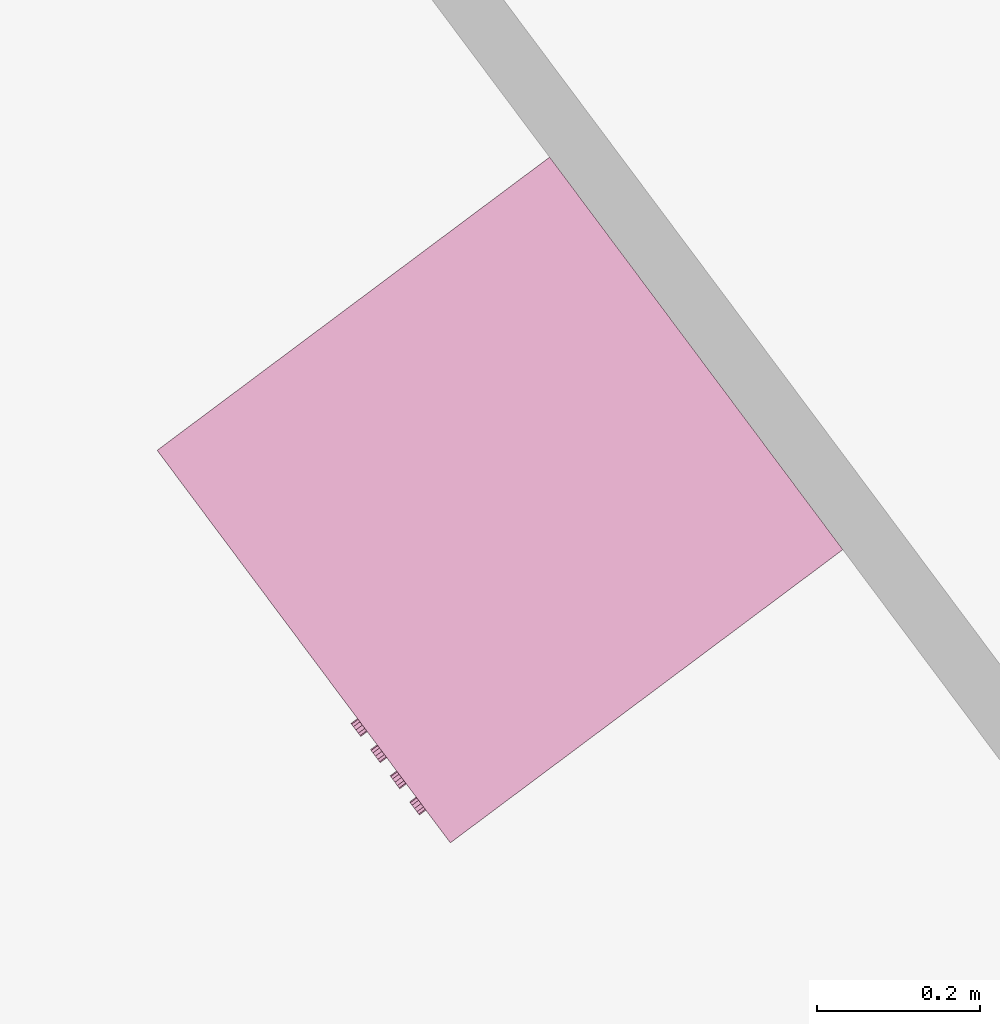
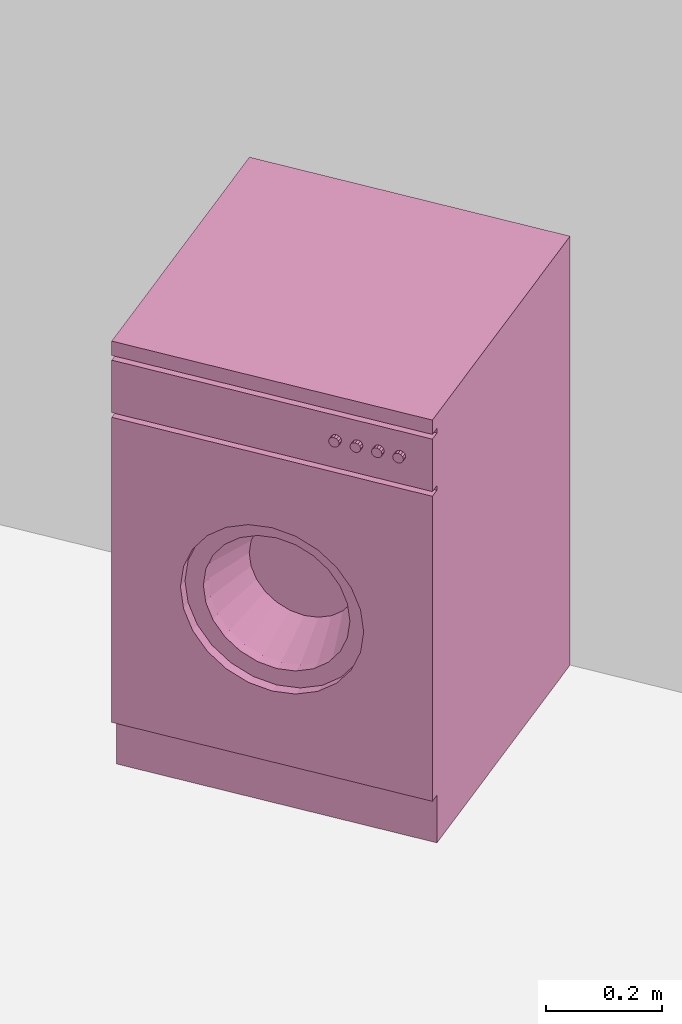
# One storey, part 96 of 121: 1 furnishing.
"""IFC2X3 building model written with IfcOpenShell, lengths in metres."""

from ifc_helpers import new_model, entity, si_unit, converted_unit, derived_unit, money_unit, direction, frame, origin_with_axes, place, context, subcontext, project, spatial, open_shell, faceted_brep, surface_model, source, transform, mapped, type_object, element, save


model = new_model("IFC2X3")

# Units and contexts
model_context = context("Model", 3, precision=1e-05, world=origin_with_axes(), true_north=direction((0.0, 1.0)))
body_context = subcontext(model_context, "Body", "Model", "MODEL_VIEW")
ifc_project = project(units=[si_unit("LENGTHUNIT", "METRE"), si_unit("AREAUNIT", "SQUARE_METRE"), si_unit("VOLUMEUNIT", "CUBIC_METRE"), converted_unit("PLANEANGLEUNIT", "DEGREE", entity("IfcPlaneAngleMeasure", 0.0174532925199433), si_unit("PLANEANGLEUNIT", "RADIAN"), dimensions=[0, 0, 0, 0, 0, 0, 0]), money_unit("CHF"), converted_unit("TIMEUNIT", "Year", entity("IfcTimeMeasure", 31557600.0), si_unit("TIMEUNIT", "SECOND"), dimensions=[0, 0, 1, 0, 0, 0, 0]), si_unit("MASSUNIT", "GRAM", prefix="KILO"), si_unit("THERMODYNAMICTEMPERATUREUNIT", "DEGREE_CELSIUS"), si_unit("LUMINOUSINTENSITYUNIT", "LUMEN"), si_unit("ENERGYUNIT", "JOULE", prefix="MEGA"), derived_unit("THERMALCONDUCTANCEUNIT", [(si_unit("POWERUNIT", "WATT"), 1), (si_unit("LENGTHUNIT", "METRE"), -1), (si_unit("THERMODYNAMICTEMPERATUREUNIT", "KELVIN"), -1)]), derived_unit("SPECIFICHEATCAPACITYUNIT", [(si_unit("ENERGYUNIT", "JOULE"), 1), (si_unit("MASSUNIT", "GRAM", prefix="KILO"), -1), (si_unit("THERMODYNAMICTEMPERATUREUNIT", "KELVIN"), -1)]), derived_unit("MASSDENSITYUNIT", [(si_unit("MASSUNIT", "GRAM", prefix="KILO"), 1), (si_unit("VOLUMEUNIT", "CUBIC_METRE"), -1)])], contexts=[model_context])

# Site, building, storey
site_placement = place(None, origin_with_axes())
site = spatial("IfcSite", under=ifc_project, at=site_placement, Name="Site", CompositionType="ELEMENT")
building_placement = place(site_placement, origin_with_axes())
building = spatial("IfcBuilding", under=site, at=building_placement, Name="Bâtiment", CompositionType="ELEMENT")
storey_placement = place(building_placement, frame((0.0, 0.0, 2.75), z_axis=(0.0, 0.0, 1.0), x_axis=(1.0, 0.0, 0.0)))
storey = spatial("IfcBuildingStorey", under=building, at=storey_placement, Name="Etage 1", CompositionType="ELEMENT", Elevation=2.75)

# Furnishing
furnishing_element_type = type_object("IfcFurnishingElementType", Name="Machine à laver")
shared_shape = source(origin_with_axes(), body_context, "Body", "SurfaceModel", [
    faceted_brep([(0.0, 0.02, 0.1), (0.0, 0.0, 0.1), (-0.6, 0.0, 0.1), (-0.6, 0.02, 0.1), (0.0, 0.02000000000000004, 0.74), (0.0, 0.0, 0.74), (-0.6, 0.0, 0.74), (-0.4714285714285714, 0.0, 0.42), (-0.4655872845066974, 0.0, 0.4643689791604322), (-0.448461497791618, 0.0, 0.5057142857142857), (-0.4212183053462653, 0.0, 0.5412183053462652), (-0.3857142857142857, 0.0, 0.568461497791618), (-0.3443689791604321, 0.0, 0.5855872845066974), (-0.3, 0.0, 0.5914285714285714), (-0.2556310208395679, 0.0, 0.5855872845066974), (-0.2142857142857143, 0.0, 0.5684614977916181), (-0.1787816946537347, 0.0, 0.5412183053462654), (-0.1515385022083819, 0.0, 0.5057142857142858), (-0.1344127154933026, 0.0, 0.4643689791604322), (-0.1285714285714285, 0.0, 0.42), (-0.1344127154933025, 0.0, 0.3756310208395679), (-0.1515385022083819, 0.0, 0.3342857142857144), (-0.1787816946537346, 0.0, 0.2987816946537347), (-0.2142857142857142, 0.0, 0.2715385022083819), (-0.2556310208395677, 0.0, 0.2544127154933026), (-0.2999999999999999, 0.0, 0.2485714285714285), (-0.344368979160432, 0.0, 0.2544127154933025), (-0.3857142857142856, 0.0, 0.2715385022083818), (-0.4212183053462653, 0.0, 0.2987816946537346), (-0.448461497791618, 0.0, 0.3342857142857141), (-0.4655872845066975, 0.0, 0.3756310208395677), (-0.6, 0.02000000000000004, 0.74), (-0.4714285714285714, 0.02000000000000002, 0.42), (-0.4655872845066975, 0.02000000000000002, 0.3756310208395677), (-0.448461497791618, 0.02000000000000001, 0.3342857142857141), (-0.4212183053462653, 0.02000000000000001, 0.2987816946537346), (-0.3857142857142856, 0.02000000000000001, 0.2715385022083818), (-0.344368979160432, 0.02000000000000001, 0.2544127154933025), (-0.2999999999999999, 0.02000000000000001, 0.2485714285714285), (-0.2556310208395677, 0.02000000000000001, 0.2544127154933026), (-0.2142857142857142, 0.02000000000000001, 0.2715385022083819), (-0.1787816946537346, 0.02000000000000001, 0.2987816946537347), (-0.1515385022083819, 0.02000000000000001, 0.3342857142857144), (-0.1344127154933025, 0.02000000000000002, 0.3756310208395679), (-0.1285714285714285, 0.02000000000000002, 0.42), (-0.1344127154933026, 0.02000000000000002, 0.4643689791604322), (-0.1515385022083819, 0.02000000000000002, 0.5057142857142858), (-0.1787816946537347, 0.02000000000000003, 0.5412183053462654), (-0.2142857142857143, 0.02000000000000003, 0.5684614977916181), (-0.2556310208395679, 0.02000000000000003, 0.5855872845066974), (-0.3, 0.02000000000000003, 0.5914285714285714), (-0.3443689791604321, 0.02000000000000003, 0.5855872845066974), (-0.3857142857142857, 0.02000000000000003, 0.568461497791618), (-0.4212183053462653, 0.02000000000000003, 0.5412183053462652), (-0.448461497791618, 0.02000000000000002, 0.5057142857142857), (-0.4655872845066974, 0.02000000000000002, 0.4643689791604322)], [[[0, 1, 2, 3]], [[4, 5, 1, 0]], [[1, 5, 6, 2], [7, 8, 9, 10, 11, 12, 13, 14, 15, 16, 17, 18, 19, 20, 21, 22, 23, 24, 25, 26, 27, 28, 29, 30]], [[3, 2, 6, 31]], [[0, 3, 31, 4], [32, 33, 34, 35, 36, 37, 38, 39, 40, 41, 42, 43, 44, 45, 46, 47, 48, 49, 50, 51, 52, 53, 54, 55]], [[31, 6, 5, 4]], [[55, 8, 7, 32]], [[54, 9, 8, 55]], [[53, 10, 9, 54]], [[52, 11, 10, 53]], [[51, 12, 11, 52]], [[50, 13, 12, 51]], [[49, 14, 13, 50]], [[48, 15, 14, 49]], [[47, 16, 15, 48]], [[46, 17, 16, 47]], [[45, 18, 17, 46]], [[44, 19, 18, 45]], [[43, 20, 19, 44]], [[42, 21, 20, 43]], [[41, 22, 21, 42]], [[40, 23, 22, 41]], [[39, 24, 23, 40]], [[38, 25, 24, 39]], [[37, 26, 25, 38]], [[36, 27, 26, 37]], [[35, 28, 27, 36]], [[34, 29, 28, 35]], [[33, 30, 29, 34]], [[32, 7, 30, 33]]]),
    faceted_brep([(-0.4714285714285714, 0.04000000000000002, 0.42), (-0.4714285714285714, 0.02000000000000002, 0.42), (-0.4655872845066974, 0.02000000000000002, 0.4643689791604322), (-0.4655872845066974, 0.04000000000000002, 0.4643689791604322), (-0.4655872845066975, 0.04000000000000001, 0.3756310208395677), (-0.4655872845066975, 0.02000000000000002, 0.3756310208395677), (-0.448461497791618, 0.02000000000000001, 0.3342857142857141), (-0.4212183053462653, 0.02000000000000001, 0.2987816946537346), (-0.3857142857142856, 0.02000000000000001, 0.2715385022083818), (-0.344368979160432, 0.02000000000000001, 0.2544127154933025), (-0.2999999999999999, 0.02000000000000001, 0.2485714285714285), (-0.2556310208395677, 0.02000000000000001, 0.2544127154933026), (-0.2142857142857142, 0.02000000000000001, 0.2715385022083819), (-0.1787816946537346, 0.02000000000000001, 0.2987816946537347), (-0.1515385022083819, 0.02000000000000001, 0.3342857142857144), (-0.1344127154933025, 0.02000000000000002, 0.3756310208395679), (-0.1285714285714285, 0.02000000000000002, 0.42), (-0.1344127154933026, 0.02000000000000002, 0.4643689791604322), (-0.1515385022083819, 0.02000000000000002, 0.5057142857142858), (-0.1787816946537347, 0.02000000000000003, 0.5412183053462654), (-0.2142857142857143, 0.02000000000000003, 0.5684614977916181), (-0.2556310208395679, 0.02000000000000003, 0.5855872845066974), (-0.3, 0.02000000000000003, 0.5914285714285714), (-0.3443689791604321, 0.02000000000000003, 0.5855872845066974), (-0.3857142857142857, 0.02000000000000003, 0.568461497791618), (-0.4212183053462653, 0.02000000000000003, 0.5412183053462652), (-0.448461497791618, 0.02000000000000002, 0.5057142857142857), (-0.4371428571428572, 0.02000000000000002, 0.42), (-0.432469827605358, 0.02000000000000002, 0.4554951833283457), (-0.4187691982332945, 0.02000000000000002, 0.4885714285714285), (-0.3969746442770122, 0.02000000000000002, 0.5169746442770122), (-0.3685714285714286, 0.02000000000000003, 0.5387691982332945), (-0.3354951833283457, 0.02000000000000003, 0.552469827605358), (-0.3, 0.02000000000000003, 0.5571428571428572), (-0.2645048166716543, 0.02000000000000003, 0.552469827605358), (-0.2314285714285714, 0.02000000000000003, 0.5387691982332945), (-0.2030253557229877, 0.02000000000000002, 0.5169746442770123), (-0.1812308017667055, 0.02000000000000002, 0.4885714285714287), (-0.167530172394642, 0.02000000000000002, 0.4554951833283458), (-0.1628571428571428, 0.02000000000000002, 0.42), (-0.167530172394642, 0.02000000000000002, 0.3845048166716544), (-0.1812308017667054, 0.02000000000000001, 0.3514285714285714), (-0.2030253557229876, 0.02000000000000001, 0.3230253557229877), (-0.2314285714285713, 0.02000000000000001, 0.3012308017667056), (-0.2645048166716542, 0.02000000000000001, 0.287530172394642), (-0.2999999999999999, 0.02000000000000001, 0.2828571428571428), (-0.3354951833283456, 0.02000000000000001, 0.287530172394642), (-0.3685714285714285, 0.02000000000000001, 0.3012308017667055), (-0.3969746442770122, 0.02000000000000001, 0.3230253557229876), (-0.4187691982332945, 0.02000000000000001, 0.3514285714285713), (-0.432469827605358, 0.02000000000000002, 0.3845048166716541), (-0.448461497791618, 0.04000000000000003, 0.5057142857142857), (-0.4212183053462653, 0.04000000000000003, 0.5412183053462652), (-0.3857142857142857, 0.04000000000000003, 0.568461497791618), (-0.3443689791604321, 0.04000000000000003, 0.5855872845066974), (-0.3, 0.04000000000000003, 0.5914285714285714), (-0.2556310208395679, 0.04000000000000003, 0.5855872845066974), (-0.2142857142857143, 0.04000000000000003, 0.5684614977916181), (-0.1787816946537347, 0.04000000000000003, 0.5412183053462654), (-0.1515385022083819, 0.04000000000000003, 0.5057142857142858), (-0.1344127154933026, 0.04000000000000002, 0.4643689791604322), (-0.1285714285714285, 0.04000000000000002, 0.42), (-0.1344127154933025, 0.04000000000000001, 0.3756310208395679), (-0.1515385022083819, 0.04000000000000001, 0.3342857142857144), (-0.1787816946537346, 0.04000000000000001, 0.2987816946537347), (-0.2142857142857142, 0.04000000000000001, 0.2715385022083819), (-0.2556310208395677, 0.04000000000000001, 0.2544127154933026), (-0.2999999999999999, 0.04000000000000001, 0.2485714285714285), (-0.344368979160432, 0.04000000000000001, 0.2544127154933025), (-0.3857142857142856, 0.04000000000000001, 0.2715385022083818), (-0.4212183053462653, 0.04000000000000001, 0.2987816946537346), (-0.448461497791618, 0.04000000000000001, 0.3342857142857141), (-0.4371428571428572, 0.04000000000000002, 0.42), (-0.432469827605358, 0.04000000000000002, 0.3845048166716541), (-0.4187691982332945, 0.04000000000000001, 0.3514285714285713), (-0.3969746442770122, 0.04000000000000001, 0.3230253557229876), (-0.3685714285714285, 0.04000000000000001, 0.3012308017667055), (-0.3354951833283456, 0.04000000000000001, 0.287530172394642), (-0.2999999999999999, 0.04000000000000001, 0.2828571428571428), (-0.2645048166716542, 0.04000000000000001, 0.287530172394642), (-0.2314285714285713, 0.04000000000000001, 0.3012308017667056), (-0.2030253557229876, 0.04000000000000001, 0.3230253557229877), (-0.1812308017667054, 0.04000000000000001, 0.3514285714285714), (-0.167530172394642, 0.04000000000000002, 0.3845048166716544), (-0.1628571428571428, 0.04000000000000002, 0.42), (-0.167530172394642, 0.04000000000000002, 0.4554951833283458), (-0.1812308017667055, 0.04000000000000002, 0.4885714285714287), (-0.2030253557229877, 0.04000000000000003, 0.5169746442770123), (-0.2314285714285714, 0.04000000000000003, 0.5387691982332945), (-0.2645048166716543, 0.04000000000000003, 0.552469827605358), (-0.3, 0.04000000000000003, 0.5571428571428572), (-0.3354951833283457, 0.04000000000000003, 0.552469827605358), (-0.3685714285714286, 0.04000000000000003, 0.5387691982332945), (-0.3969746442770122, 0.04000000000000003, 0.5169746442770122), (-0.4187691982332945, 0.04000000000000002, 0.4885714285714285), (-0.432469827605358, 0.04000000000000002, 0.4554951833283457)], [[[0, 1, 2, 3]], [[4, 5, 1, 0]], [[1, 5, 6, 7, 8, 9, 10, 11, 12, 13, 14, 15, 16, 17, 18, 19, 20, 21, 22, 23, 24, 25, 26, 2], [27, 28, 29, 30, 31, 32, 33, 34, 35, 36, 37, 38, 39, 40, 41, 42, 43, 44, 45, 46, 47, 48, 49, 50]], [[3, 2, 26, 51]], [[0, 3, 51, 52, 53, 54, 55, 56, 57, 58, 59, 60, 61, 62, 63, 64, 65, 66, 67, 68, 69, 70, 71, 4], [72, 73, 74, 75, 76, 77, 78, 79, 80, 81, 82, 83, 84, 85, 86, 87, 88, 89, 90, 91, 92, 93, 94, 95]], [[71, 6, 5, 4]], [[70, 7, 6, 71]], [[69, 8, 7, 70]], [[68, 9, 8, 69]], [[67, 10, 9, 68]], [[66, 11, 10, 67]], [[65, 12, 11, 66]], [[64, 13, 12, 65]], [[63, 14, 13, 64]], [[62, 15, 14, 63]], [[61, 16, 15, 62]], [[60, 17, 16, 61]], [[59, 18, 17, 60]], [[58, 19, 18, 59]], [[57, 20, 19, 58]], [[56, 21, 20, 57]], [[55, 22, 21, 56]], [[54, 23, 22, 55]], [[53, 24, 23, 54]], [[52, 25, 24, 53]], [[51, 26, 25, 52]], [[95, 28, 27, 72]], [[94, 29, 28, 95]], [[93, 30, 29, 94]], [[92, 31, 30, 93]], [[91, 32, 31, 92]], [[90, 33, 32, 91]], [[89, 34, 33, 90]], [[88, 35, 34, 89]], [[87, 36, 35, 88]], [[86, 37, 36, 87]], [[85, 38, 37, 86]], [[84, 39, 38, 85]], [[83, 40, 39, 84]], [[82, 41, 40, 83]], [[81, 42, 41, 82]], [[80, 43, 42, 81]], [[79, 44, 43, 80]], [[78, 45, 44, 79]], [[77, 46, 45, 78]], [[76, 47, 46, 77]], [[75, 48, 47, 76]], [[74, 49, 48, 75]], [[73, 50, 49, 74]], [[72, 27, 50, 73]]]),
    surface_model("IfcShellBasedSurfaceModel", [(-0.2645048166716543, 0.03999999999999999, 0.552469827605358), (-0.2733786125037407, 0.14, 0.5193523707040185), (-0.3, 0.14, 0.5228571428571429), (-0.3, 0.03999999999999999, 0.5571428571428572), (-0.2314285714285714, 0.03999999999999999, 0.5387691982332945), (-0.2485714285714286, 0.14, 0.5090768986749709), (-0.2272690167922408, 0.14, 0.4927309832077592), (-0.2109231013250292, 0.14, 0.4714285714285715), (-0.2006476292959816, 0.14, 0.4466213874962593), (-0.1971428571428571, 0.14, 0.4200000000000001), (-0.2006476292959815, 0.14, 0.3933786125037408), (-0.2109231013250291, 0.14, 0.3685714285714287), (-0.2272690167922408, 0.14, 0.3472690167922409), (-0.2485714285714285, 0.14, 0.3309231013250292), (-0.2733786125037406, 0.14, 0.3206476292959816), (-0.2999999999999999, 0.14, 0.3171428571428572), (-0.3266213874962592, 0.14, 0.3206476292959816), (-0.3514285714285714, 0.14, 0.3309231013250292), (-0.3727309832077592, 0.14, 0.3472690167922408), (-0.3890768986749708, 0.14, 0.3685714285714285), (-0.3993523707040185, 0.14, 0.3933786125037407), (-0.4028571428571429, 0.14, 0.42), (-0.3993523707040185, 0.14, 0.4466213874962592), (-0.3890768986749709, 0.14, 0.4714285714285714), (-0.3727309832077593, 0.14, 0.4927309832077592), (-0.3514285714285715, 0.14, 0.5090768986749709), (-0.3266213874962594, 0.14, 0.5193523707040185), (-0.3354951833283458, 0.03999999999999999, 0.552469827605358), (-0.2030253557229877, 0.03999999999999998, 0.5169746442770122), (-0.1812308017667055, 0.03999999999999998, 0.4885714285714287), (-0.167530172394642, 0.03999999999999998, 0.4554951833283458), (-0.1628571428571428, 0.03999999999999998, 0.4200000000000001), (-0.167530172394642, 0.03999999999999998, 0.3845048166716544), (-0.1812308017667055, 0.03999999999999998, 0.3514285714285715), (-0.2030253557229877, 0.03999999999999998, 0.3230253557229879), (-0.2314285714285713, 0.03999999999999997, 0.3012308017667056), (-0.2645048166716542, 0.03999999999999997, 0.2875301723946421), (-0.2999999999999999, 0.03999999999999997, 0.2828571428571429), (-0.3354951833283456, 0.03999999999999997, 0.2875301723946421), (-0.3685714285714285, 0.03999999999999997, 0.3012308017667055), (-0.3969746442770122, 0.03999999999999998, 0.3230253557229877), (-0.4187691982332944, 0.03999999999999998, 0.3514285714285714), (-0.432469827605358, 0.03999999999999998, 0.3845048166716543), (-0.4371428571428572, 0.03999999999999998, 0.4199999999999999), (-0.432469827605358, 0.03999999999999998, 0.4554951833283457), (-0.4187691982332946, 0.03999999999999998, 0.4885714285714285), (-0.3969746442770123, 0.03999999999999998, 0.5169746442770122), (-0.3685714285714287, 0.03999999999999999, 0.5387691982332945)], [open_shell([[[0, 1, 2, 3]], [[4, 5, 1, 0]], [[2, 1, 5, 6, 7, 8, 9, 10, 11, 12, 13, 14, 15, 16, 17, 18, 19, 20, 21, 22, 23, 24, 25, 26]], [[3, 2, 26, 27]], [[28, 6, 5, 4]], [[29, 7, 6, 28]], [[30, 8, 7, 29]], [[31, 9, 8, 30]], [[32, 10, 9, 31]], [[33, 11, 10, 32]], [[34, 12, 11, 33]], [[35, 13, 12, 34]], [[36, 14, 13, 35]], [[37, 15, 14, 36]], [[38, 16, 15, 37]], [[39, 17, 16, 38]], [[40, 18, 17, 39]], [[41, 19, 18, 40]], [[42, 20, 19, 41]], [[43, 21, 20, 42]], [[44, 22, 21, 43]], [[45, 23, 22, 44]], [[46, 24, 23, 45]], [[47, 25, 24, 46]], [[27, 26, 25, 47]]])]),
    surface_model("IfcShellBasedSurfaceModel", [(0.0, 0.02, 0.1), (0.0, 0.6, 0.09999999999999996), (0.0, 0.6, 0.87), (0.0, 0.02000000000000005, 0.87)], [open_shell([[[0, 1, 2, 3]]])]),
    surface_model("IfcShellBasedSurfaceModel", [(-0.6, 0.01999999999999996, 0.1), (-0.6, 0.5999999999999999, 0.09999999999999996), (-0.6, 0.5999999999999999, 0.87), (-0.6, 0.02000000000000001, 0.87)], [open_shell([[[0, 1, 2, 3]]])]),
    surface_model("IfcShellBasedSurfaceModel", [(0.0, 0.6, 0.1), (-0.6, 0.6, 0.1), (-0.6, 0.6, 0.87), (0.0, 0.6, 0.87)], [open_shell([[[0, 1, 2, 3]]])]),
    faceted_brep([(0.0, 0.02, 0.0), (0.0, 0.02, 0.1), (-0.6, 0.02, 0.1), (-0.6, 0.02, 0.0), (0.0, 0.6, 0.0), (0.0, 0.6, 0.1), (-0.6, 0.6, 0.1), (-0.6, 0.6, 0.0)], [[[0, 1, 2, 3]], [[4, 5, 1, 0]], [[1, 5, 6, 2]], [[3, 2, 6, 7]], [[0, 3, 7, 4]], [[7, 6, 5, 4]]]),
    faceted_brep([(0.0, 0.02, 0.75), (0.0, 0.0, 0.75), (-0.6, 0.0, 0.75), (-0.6, 0.02, 0.75), (0.0, 0.02000000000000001, 0.86), (0.0, 0.0, 0.86), (-0.6, 0.0, 0.86), (-0.6, 0.02000000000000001, 0.86)], [[[0, 1, 2, 3]], [[4, 5, 1, 0]], [[1, 5, 6, 2]], [[3, 2, 6, 7]], [[0, 3, 7, 4]], [[7, 6, 5, 4]]]),
    surface_model("IfcShellBasedSurfaceModel", [(0.0, 0.02, 0.74), (-0.6, 0.02, 0.74), (-0.6, 0.02000000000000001, 0.87), (0.0, 0.02000000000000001, 0.87)], [open_shell([[[0, 1, 2, 3]]])]),
    faceted_brep([(0.0, 0.0, 0.87), (0.0, 0.0, 0.9), (-0.6, 0.0, 0.9), (-0.6, 0.0, 0.87), (0.0, 0.6, 0.87), (0.0, 0.6, 0.9), (-0.6, 0.6, 0.9), (-0.6, 0.6, 0.87)], [[[0, 1, 2, 3]], [[4, 5, 1, 0]], [[1, 5, 6, 2]], [[3, 2, 6, 7]], [[0, 3, 7, 4]], [[7, 6, 5, 4]]]),
    faceted_brep([(-0.06866025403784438, 0.0, 0.8049999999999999), (-0.06999999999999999, 0.0, 0.8099999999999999), (-0.06866025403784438, 0.0, 0.815), (-0.065, 0.0, 0.8186602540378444), (-0.06, 0.0, 0.82), (-0.055, 0.0, 0.8186602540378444), (-0.05133974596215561, 0.0, 0.815), (-0.05, 0.0, 0.8099999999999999), (-0.05133974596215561, 0.0, 0.8049999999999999), (-0.05499999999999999, 0.0, 0.8013397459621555), (-0.05999999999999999, 0.0, 0.7999999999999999), (-0.06499999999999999, 0.0, 0.8013397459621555), (-0.06866025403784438, -0.01, 0.8049999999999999), (-0.06999999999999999, -0.01, 0.8099999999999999), (-0.06866025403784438, -0.01, 0.815), (-0.065, -0.01, 0.8186602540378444), (-0.06, -0.01, 0.82), (-0.055, -0.01, 0.8186602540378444), (-0.05133974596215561, -0.01, 0.815), (-0.05, -0.01, 0.8099999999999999), (-0.05133974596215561, -0.01, 0.8049999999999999), (-0.05499999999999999, -0.01, 0.8013397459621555), (-0.05999999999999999, -0.01, 0.7999999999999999), (-0.06499999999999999, -0.01, 0.8013397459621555)], [[[0, 1, 2, 3, 4, 5, 6, 7, 8, 9, 10, 11]], [[0, 12, 13, 1]], [[1, 13, 14, 2]], [[2, 14, 15, 3]], [[3, 15, 16, 4]], [[4, 16, 17, 5]], [[5, 17, 18, 6]], [[6, 18, 19, 7]], [[7, 19, 20, 8]], [[8, 20, 21, 9]], [[9, 21, 22, 10]], [[10, 22, 23, 11]], [[11, 23, 12, 0]], [[12, 23, 22, 21, 20, 19, 18, 17, 16, 15, 14, 13]]]),
    faceted_brep([(-0.1086602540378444, 0.0, 0.8049999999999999), (-0.11, 0.0, 0.8099999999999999), (-0.1086602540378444, 0.0, 0.815), (-0.105, 0.0, 0.8186602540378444), (-0.1, 0.0, 0.82), (-0.095, 0.0, 0.8186602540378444), (-0.09133974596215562, 0.0, 0.815), (-0.09000000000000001, 0.0, 0.8099999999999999), (-0.09133974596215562, 0.0, 0.8049999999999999), (-0.095, 0.0, 0.8013397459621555), (-0.09999999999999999, 0.0, 0.7999999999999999), (-0.105, 0.0, 0.8013397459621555), (-0.1086602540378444, -0.01, 0.8049999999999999), (-0.11, -0.01, 0.8099999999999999), (-0.1086602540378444, -0.01, 0.815), (-0.105, -0.01, 0.8186602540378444), (-0.1, -0.01, 0.82), (-0.095, -0.01, 0.8186602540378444), (-0.09133974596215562, -0.01, 0.815), (-0.09000000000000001, -0.01, 0.8099999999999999), (-0.09133974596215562, -0.01, 0.8049999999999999), (-0.095, -0.01, 0.8013397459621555), (-0.09999999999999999, -0.01, 0.7999999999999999), (-0.105, -0.01, 0.8013397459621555)], [[[0, 1, 2, 3, 4, 5, 6, 7, 8, 9, 10, 11]], [[0, 12, 13, 1]], [[1, 13, 14, 2]], [[2, 14, 15, 3]], [[3, 15, 16, 4]], [[4, 16, 17, 5]], [[5, 17, 18, 6]], [[6, 18, 19, 7]], [[7, 19, 20, 8]], [[8, 20, 21, 9]], [[9, 21, 22, 10]], [[10, 22, 23, 11]], [[11, 23, 12, 0]], [[12, 23, 22, 21, 20, 19, 18, 17, 16, 15, 14, 13]]]),
    faceted_brep([(-0.1486602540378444, 0.0, 0.8049999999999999), (-0.15, 0.0, 0.8099999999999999), (-0.1486602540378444, 0.0, 0.815), (-0.145, 0.0, 0.8186602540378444), (-0.14, 0.0, 0.82), (-0.135, 0.0, 0.8186602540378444), (-0.1313397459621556, 0.0, 0.815), (-0.13, 0.0, 0.8099999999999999), (-0.1313397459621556, 0.0, 0.8049999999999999), (-0.135, 0.0, 0.8013397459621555), (-0.14, 0.0, 0.7999999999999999), (-0.145, 0.0, 0.8013397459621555), (-0.1486602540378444, -0.01, 0.8049999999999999), (-0.15, -0.01, 0.8099999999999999), (-0.1486602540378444, -0.01, 0.815), (-0.145, -0.01, 0.8186602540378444), (-0.14, -0.01, 0.82), (-0.135, -0.01, 0.8186602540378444), (-0.1313397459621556, -0.01, 0.815), (-0.13, -0.01, 0.8099999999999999), (-0.1313397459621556, -0.01, 0.8049999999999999), (-0.135, -0.01, 0.8013397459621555), (-0.14, -0.01, 0.7999999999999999), (-0.145, -0.01, 0.8013397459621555)], [[[0, 1, 2, 3, 4, 5, 6, 7, 8, 9, 10, 11]], [[0, 12, 13, 1]], [[1, 13, 14, 2]], [[2, 14, 15, 3]], [[3, 15, 16, 4]], [[4, 16, 17, 5]], [[5, 17, 18, 6]], [[6, 18, 19, 7]], [[7, 19, 20, 8]], [[8, 20, 21, 9]], [[9, 21, 22, 10]], [[10, 22, 23, 11]], [[11, 23, 12, 0]], [[12, 23, 22, 21, 20, 19, 18, 17, 16, 15, 14, 13]]]),
    faceted_brep([(-0.1886602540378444, 0.0, 0.8049999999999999), (-0.19, 0.0, 0.8099999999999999), (-0.1886602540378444, 0.0, 0.815), (-0.185, 0.0, 0.8186602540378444), (-0.18, 0.0, 0.82), (-0.175, 0.0, 0.8186602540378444), (-0.1713397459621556, 0.0, 0.815), (-0.17, 0.0, 0.8099999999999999), (-0.1713397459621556, 0.0, 0.8049999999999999), (-0.175, 0.0, 0.8013397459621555), (-0.18, 0.0, 0.7999999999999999), (-0.185, 0.0, 0.8013397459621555), (-0.1886602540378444, -0.01, 0.8049999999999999), (-0.19, -0.01, 0.8099999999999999), (-0.1886602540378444, -0.01, 0.815), (-0.185, -0.01, 0.8186602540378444), (-0.18, -0.01, 0.82), (-0.175, -0.01, 0.8186602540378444), (-0.1713397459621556, -0.01, 0.815), (-0.17, -0.01, 0.8099999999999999), (-0.1713397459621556, -0.01, 0.8049999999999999), (-0.175, -0.01, 0.8013397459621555), (-0.18, -0.01, 0.7999999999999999), (-0.185, -0.01, 0.8013397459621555)], [[[0, 1, 2, 3, 4, 5, 6, 7, 8, 9, 10, 11]], [[0, 12, 13, 1]], [[1, 13, 14, 2]], [[2, 14, 15, 3]], [[3, 15, 16, 4]], [[4, 16, 17, 5]], [[5, 17, 18, 6]], [[6, 18, 19, 7]], [[7, 19, 20, 8]], [[8, 20, 21, 9]], [[9, 21, 22, 10]], [[10, 22, 23, 11]], [[11, 23, 12, 0]], [[12, 23, 22, 21, 20, 19, 18, 17, 16, 15, 14, 13]]]),
])
furnishing_placement = place(storey_placement, frame((9538.478067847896, -1084.14002861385, 57.7), z_axis=(0.0, 0.0, 1.0), x_axis=(0.5984464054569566, -0.8011628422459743, 0.0)))
element("IfcFurnishingElement", 1, at=furnishing_placement, inside=storey, type_object=furnishing_element_type, Name="Obj.-019", context=body_context, shape_type="MappedRepresentation", body=[
    mapped(shared_shape, transform((0.0, 0.0, 0.0))),
])

save(model, "model.ifc")
